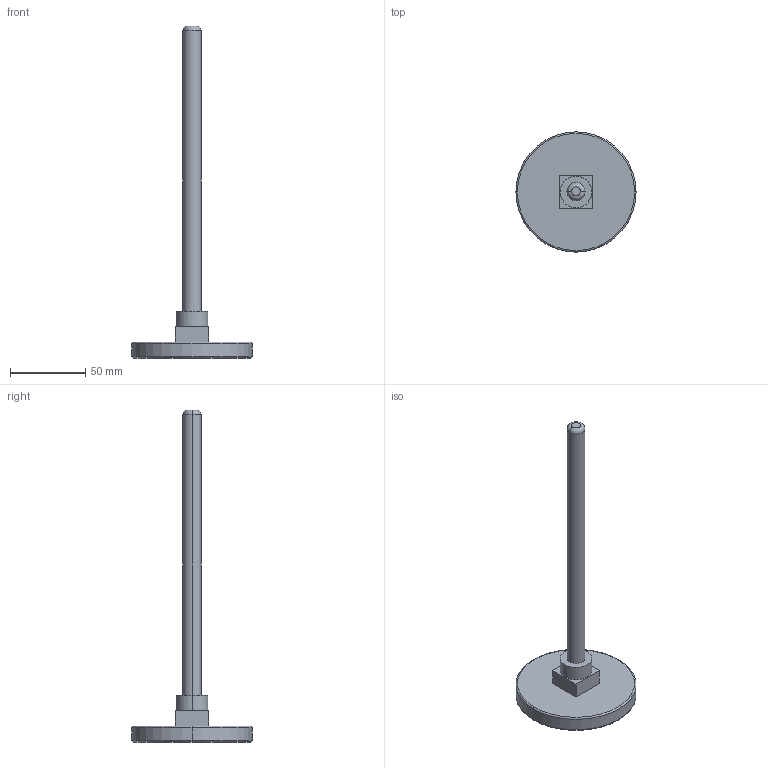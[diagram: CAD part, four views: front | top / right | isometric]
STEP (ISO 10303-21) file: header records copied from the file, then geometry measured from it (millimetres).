
FILE_DESCRIPTION (( 'STEP AP214' ), '1' );
FILE_NAME ('Termometr_bimetaliczny_x_0_3D_AFRISO.STEP', '2022-12-19T08:52:38', ( '' ), ( '' ), 'SwSTEP 2.0', 'SolidWorks 2022', '' );
FILE_SCHEMA (( 'AUTOMOTIVE_DESIGN' ));
Length unit declared in the file: millimetre
Products named in the file (1): Termometr_bimetaliczny_x_0_3D_AFRISO
Bounding box: 80 x 80 x 221 mm (x, y, z)
Volume: 82640.9 mm3; surface area: 21169.4 mm2
Topology: 1 solids, 1 shells, 21 faces, 42 edges, 26 vertices
Faces by surface type: plane 9, torus 6, cylinder 6
Entity records: 586 total; most frequent: DIRECTION 110, CARTESIAN_POINT 90, ORIENTED_EDGE 84, AXIS2_PLACEMENT_3D 46, EDGE_CURVE 42, VERTEX_POINT 26, CIRCLE 24, EDGE_LOOP 24
